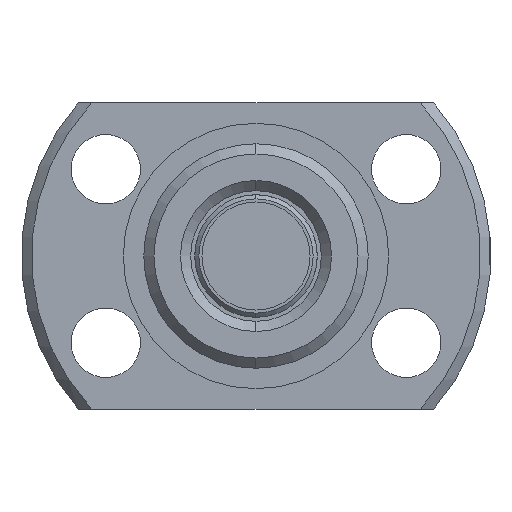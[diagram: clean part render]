
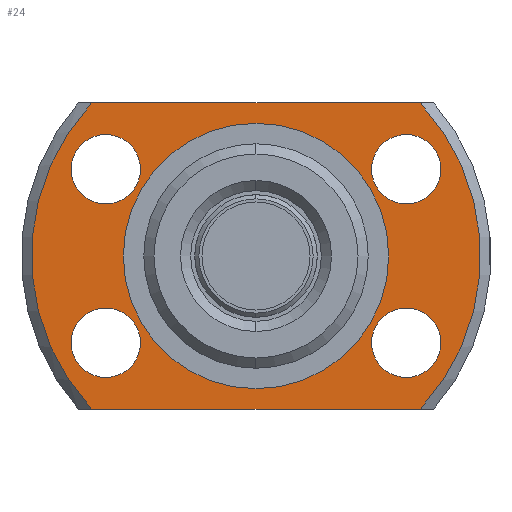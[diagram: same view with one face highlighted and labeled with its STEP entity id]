
A CAD part, left-side view. The second image highlights one B-rep face of the part: STEP entity #24.
In plain terms, the highlighted planar face has unit normal (-1, 0, 0).
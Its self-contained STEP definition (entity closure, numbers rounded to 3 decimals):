
#24 = ADVANCED_FACE ( 'NONE', ( #822, #823, #835, #833, #820, #824 ), #584, .T. ) ;
#79 = AXIS2_PLACEMENT_3D ( 'NONE', #1529, #1526, #1521 ) ;
#112 = AXIS2_PLACEMENT_3D ( 'NONE', #874, #873, #872 ) ;
#149 = AXIS2_PLACEMENT_3D ( 'NONE', #1655, #1651, #1650 ) ;
#151 = AXIS2_PLACEMENT_3D ( 'NONE', #1499, #1498, #1497 ) ;
#157 = AXIS2_PLACEMENT_3D ( 'NONE', #1545, #1544, #1543 ) ;
#161 = AXIS2_PLACEMENT_3D ( 'NONE', #1576, #1573, #1572 ) ;
#163 = AXIS2_PLACEMENT_3D ( 'NONE', #1595, #1592, #1591 ) ;
#166 = AXIS2_PLACEMENT_3D ( 'NONE', #1615, #1614, #1613 ) ;
#187 = CIRCLE ( 'NONE', #151, 6.5 ) ;
#206 = CIRCLE ( 'NONE', #112, 1.7 ) ;
#242 = CIRCLE ( 'NONE', #157, 1.7 ) ;
#251 = CIRCLE ( 'NONE', #161, 1.7 ) ;
#260 = CIRCLE ( 'NONE', #163, 1.7 ) ;
#270 = CIRCLE ( 'NONE', #166, 1.7 ) ;
#324 = CIRCLE ( 'NONE', #79, 11. ) ;
#334 = CIRCLE ( 'NONE', #149, 11. ) ;
#358 = DIRECTION ( 'NONE',  ( 0., -1., 0. ) ) ;
#359 = DIRECTION ( 'NONE',  ( 0., 0., -1. ) ) ;
#360 = DIRECTION ( 'NONE',  ( 1., 0., 0. ) ) ;
#361 = CARTESIAN_POINT ( 'NONE',  ( -3.5, 0., 0. ) ) ;
#363 = CARTESIAN_POINT ( 'NONE',  ( -3.5, 11., 7.5 ) ) ;
#364 = CARTESIAN_POINT ( 'NONE',  ( -3.5, 11., -7.5 ) ) ;
#365 = DIRECTION ( 'NONE',  ( 0., 0., 1. ) ) ;
#366 = DIRECTION ( 'NONE',  ( -1., 0., 0. ) ) ;
#367 = CARTESIAN_POINT ( 'NONE',  ( -3.5, 7.361, -4.25 ) ) ;
#368 = DIRECTION ( 'NONE',  ( 0., 0., 1. ) ) ;
#369 = DIRECTION ( 'NONE',  ( -1., 0., 0. ) ) ;
#370 = CARTESIAN_POINT ( 'NONE',  ( -3.5, 7.361, 4.25 ) ) ;
#372 = DIRECTION ( 'NONE',  ( 0., 0., 1. ) ) ;
#373 = DIRECTION ( 'NONE',  ( -1., 0., 0. ) ) ;
#374 = CARTESIAN_POINT ( 'NONE',  ( -3.5, -7.361, 4.25 ) ) ;
#375 = DIRECTION ( 'NONE',  ( 0., 1., 0. ) ) ;
#581 = DIRECTION ( 'NONE',  ( 0., 0., 1. ) ) ;
#582 = CARTESIAN_POINT ( 'NONE',  ( -3.5, 11., 0. ) ) ;
#584 = PLANE ( 'NONE',  #1976 ) ;
#586 = DIRECTION ( 'NONE',  ( -1., 0., 0. ) ) ;
#610 = ORIENTED_EDGE ( 'NONE', *, *, #970, .T. ) ;
#616 = ORIENTED_EDGE ( 'NONE', *, *, #1963, .F. ) ;
#618 = ORIENTED_EDGE ( 'NONE', *, *, #969, .T. ) ;
#626 = ORIENTED_EDGE ( 'NONE', *, *, #1921, .F. ) ;
#627 = ORIENTED_EDGE ( 'NONE', *, *, #2072, .T. ) ;
#637 = ORIENTED_EDGE ( 'NONE', *, *, #968, .T. ) ;
#638 = ORIENTED_EDGE ( 'NONE', *, *, #967, .F. ) ;
#640 = ORIENTED_EDGE ( 'NONE', *, *, #2060, .F. ) ;
#641 = ORIENTED_EDGE ( 'NONE', *, *, #966, .F. ) ;
#644 = ORIENTED_EDGE ( 'NONE', *, *, #2054, .F. ) ;
#647 = ORIENTED_EDGE ( 'NONE', *, *, #965, .F. ) ;
#648 = ORIENTED_EDGE ( 'NONE', *, *, #2049, .F. ) ;
#661 = ORIENTED_EDGE ( 'NONE', *, *, #2111, .F. ) ;
#667 = ORIENTED_EDGE ( 'NONE', *, *, #2044, .F. ) ;
#694 = VECTOR ( 'NONE', #358, 1000. ) ;
#696 = VECTOR ( 'NONE', #375, 1000. ) ;
#698 = LINE ( 'NONE', #364, #694 ) ;
#699 = LINE ( 'NONE', #363, #696 ) ;
#700 = CIRCLE ( 'NONE', #1915, 1.7 ) ;
#701 = CIRCLE ( 'NONE', #1913, 6.5 ) ;
#705 = CIRCLE ( 'NONE', #1914, 1.7 ) ;
#709 = CIRCLE ( 'NONE', #1917, 1.7 ) ;
#820 = FACE_BOUND ( 'NONE', #1243, .T. ) ;
#822 = FACE_BOUND ( 'NONE', #1193, .T. ) ;
#823 = FACE_BOUND ( 'NONE', #1227, .T. ) ;
#824 = FACE_OUTER_BOUND ( 'NONE', #1204, .T. ) ;
#833 = FACE_BOUND ( 'NONE', #1242, .T. ) ;
#835 = FACE_BOUND ( 'NONE', #1258, .T. ) ;
#872 = DIRECTION ( 'NONE',  ( 0., 0., 1. ) ) ;
#873 = DIRECTION ( 'NONE',  ( -1., 0., 0. ) ) ;
#874 = CARTESIAN_POINT ( 'NONE',  ( -3.5, -7.361, -4.25 ) ) ;
#965 = EDGE_CURVE ( 'NONE', #1291, #1335, #709, .T. ) ;
#966 = EDGE_CURVE ( 'NONE', #1300, #1279, #700, .T. ) ;
#967 = EDGE_CURVE ( 'NONE', #1301, #1297, #705, .T. ) ;
#968 = EDGE_CURVE ( 'NONE', #1284, #1280, #701, .T. ) ;
#969 = EDGE_CURVE ( 'NONE', #1351, #1372, #699, .T. ) ;
#970 = EDGE_CURVE ( 'NONE', #1275, #1404, #698, .T. ) ;
#1193 = EDGE_LOOP ( 'NONE', ( #667, #661 ) ) ;
#1204 = EDGE_LOOP ( 'NONE', ( #626, #618, #616, #610 ) ) ;
#1227 = EDGE_LOOP ( 'NONE', ( #648, #647 ) ) ;
#1242 = EDGE_LOOP ( 'NONE', ( #640, #638 ) ) ;
#1243 = EDGE_LOOP ( 'NONE', ( #637, #627 ) ) ;
#1258 = EDGE_LOOP ( 'NONE', ( #644, #641 ) ) ;
#1275 = VERTEX_POINT ( 'NONE', #1675 ) ;
#1279 = VERTEX_POINT ( 'NONE', #1686 ) ;
#1280 = VERTEX_POINT ( 'NONE', #1653 ) ;
#1284 = VERTEX_POINT ( 'NONE', #1717 ) ;
#1291 = VERTEX_POINT ( 'NONE', #1756 ) ;
#1297 = VERTEX_POINT ( 'NONE', #1820 ) ;
#1300 = VERTEX_POINT ( 'NONE', #1789 ) ;
#1301 = VERTEX_POINT ( 'NONE', #1811 ) ;
#1329 = VERTEX_POINT ( 'NONE', #1828 ) ;
#1335 = VERTEX_POINT ( 'NONE', #1821 ) ;
#1344 = VERTEX_POINT ( 'NONE', #1809 ) ;
#1351 = VERTEX_POINT ( 'NONE', #1801 ) ;
#1372 = VERTEX_POINT ( 'NONE', #1766 ) ;
#1404 = VERTEX_POINT ( 'NONE', #1777 ) ;
#1497 = DIRECTION ( 'NONE',  ( 0., 0., -1. ) ) ;
#1498 = DIRECTION ( 'NONE',  ( 1., 0., 0. ) ) ;
#1499 = CARTESIAN_POINT ( 'NONE',  ( -3.5, 0., 0. ) ) ;
#1521 = DIRECTION ( 'NONE',  ( 0., 0., -1. ) ) ;
#1526 = DIRECTION ( 'NONE',  ( 1., 0., 0. ) ) ;
#1529 = CARTESIAN_POINT ( 'NONE',  ( -3.5, 0., 0. ) ) ;
#1543 = DIRECTION ( 'NONE',  ( 0., 0., 1. ) ) ;
#1544 = DIRECTION ( 'NONE',  ( -1., 0., 0. ) ) ;
#1545 = CARTESIAN_POINT ( 'NONE',  ( -3.5, 7.361, -4.25 ) ) ;
#1572 = DIRECTION ( 'NONE',  ( 0., 0., 1. ) ) ;
#1573 = DIRECTION ( 'NONE',  ( -1., 0., 0. ) ) ;
#1576 = CARTESIAN_POINT ( 'NONE',  ( -3.5, 7.361, 4.25 ) ) ;
#1591 = DIRECTION ( 'NONE',  ( 0., 0., 1. ) ) ;
#1592 = DIRECTION ( 'NONE',  ( -1., 0., 0. ) ) ;
#1595 = CARTESIAN_POINT ( 'NONE',  ( -3.5, -7.361, 4.25 ) ) ;
#1613 = DIRECTION ( 'NONE',  ( 0., 0., 1. ) ) ;
#1614 = DIRECTION ( 'NONE',  ( -1., 0., 0. ) ) ;
#1615 = CARTESIAN_POINT ( 'NONE',  ( -3.5, -7.361, -4.25 ) ) ;
#1650 = DIRECTION ( 'NONE',  ( 0., 0., -1. ) ) ;
#1651 = DIRECTION ( 'NONE',  ( 1., 0., 0. ) ) ;
#1653 = CARTESIAN_POINT ( 'NONE',  ( -3.5, 0., 6.5 ) ) ;
#1655 = CARTESIAN_POINT ( 'NONE',  ( -3.5, 0., 0. ) ) ;
#1675 = CARTESIAN_POINT ( 'NONE',  ( -3.5, 8.047, -7.5 ) ) ;
#1686 = CARTESIAN_POINT ( 'NONE',  ( -3.5, 7.361, 2.55 ) ) ;
#1717 = CARTESIAN_POINT ( 'NONE',  ( -3.5, 0., -6.5 ) ) ;
#1756 = CARTESIAN_POINT ( 'NONE',  ( -3.5, -7.361, 5.95 ) ) ;
#1766 = CARTESIAN_POINT ( 'NONE',  ( -3.5, 8.047, 7.5 ) ) ;
#1777 = CARTESIAN_POINT ( 'NONE',  ( -3.5, -8.047, -7.5 ) ) ;
#1789 = CARTESIAN_POINT ( 'NONE',  ( -3.5, 7.361, 5.95 ) ) ;
#1801 = CARTESIAN_POINT ( 'NONE',  ( -3.5, -8.047, 7.5 ) ) ;
#1809 = CARTESIAN_POINT ( 'NONE',  ( -3.5, -7.361, -2.55 ) ) ;
#1811 = CARTESIAN_POINT ( 'NONE',  ( -3.5, 7.361, -2.55 ) ) ;
#1820 = CARTESIAN_POINT ( 'NONE',  ( -3.5, 7.361, -5.95 ) ) ;
#1821 = CARTESIAN_POINT ( 'NONE',  ( -3.5, -7.361, 2.55 ) ) ;
#1828 = CARTESIAN_POINT ( 'NONE',  ( -3.5, -7.361, -5.95 ) ) ;
#1913 = AXIS2_PLACEMENT_3D ( 'NONE', #361, #360, #359 ) ;
#1914 = AXIS2_PLACEMENT_3D ( 'NONE', #367, #366, #365 ) ;
#1915 = AXIS2_PLACEMENT_3D ( 'NONE', #370, #369, #368 ) ;
#1917 = AXIS2_PLACEMENT_3D ( 'NONE', #374, #373, #372 ) ;
#1921 = EDGE_CURVE ( 'NONE', #1351, #1404, #334, .T. ) ;
#1963 = EDGE_CURVE ( 'NONE', #1275, #1372, #324, .T. ) ;
#1976 = AXIS2_PLACEMENT_3D ( 'NONE', #582, #586, #581 ) ;
#2044 = EDGE_CURVE ( 'NONE', #1329, #1344, #270, .T. ) ;
#2049 = EDGE_CURVE ( 'NONE', #1335, #1291, #260, .T. ) ;
#2054 = EDGE_CURVE ( 'NONE', #1279, #1300, #251, .T. ) ;
#2060 = EDGE_CURVE ( 'NONE', #1297, #1301, #242, .T. ) ;
#2072 = EDGE_CURVE ( 'NONE', #1280, #1284, #187, .T. ) ;
#2111 = EDGE_CURVE ( 'NONE', #1344, #1329, #206, .T. ) ;
